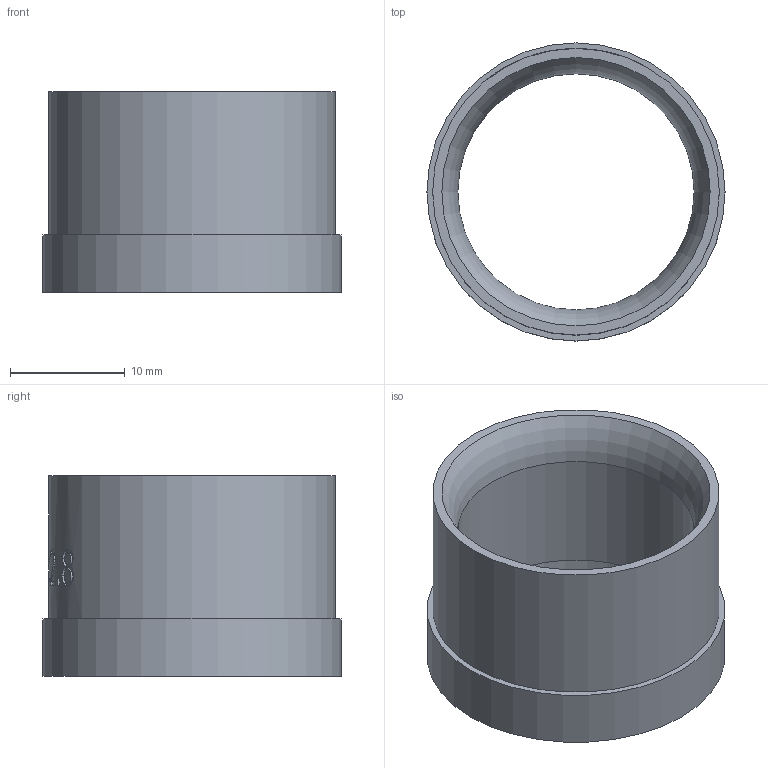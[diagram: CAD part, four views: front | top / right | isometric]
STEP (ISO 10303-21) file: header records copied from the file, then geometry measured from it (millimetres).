
FILE_DESCRIPTION(/* description */ (''),/* implementation_level */ '2;1');
FILE_NAME(/* name */ 'C:\Users\Doom\Desktop\Фадотех\Натяжка\SFG-02 NEW 14.01.2020\SFG-02 NEW 14.01.2020.stp',/* time_stamp */ '2022-07-25T12:04:43+03:00',/* author */ ('Doom'),/* organization */ (''),/* preprocessor_version */ 'ST-DEVELOPER v18',/* originating_system */ 'Autodesk Inventor 2020',/* authorisation */ '');
FILE_SCHEMA (('AUTOMOTIVE_DESIGN { 1 0 10303 214 3 1 1 }'));
Length unit declared in the file: millimetre
Products named in the file (1): SFG-02 NEW 14.01.2020
Bounding box: 26 x 26 x 17.5 mm (x, y, z)
Volume: 2757.9 mm3; surface area: 2895.8 mm2
Topology: 1 solids, 1 shells, 101 faces, 273 edges, 185 vertices
Faces by surface type: bspline 65, plane 22, cylinder 12, cone 1, torus 1
Full cylindrical faces by diameter (mm): 20.6 x1, 25 x1, 26 x1
Entity records: 4752 total; most frequent: CARTESIAN_POINT 2561, ORIENTED_EDGE 546, EDGE_CURVE 273, DIRECTION 253, VERTEX_POINT 185, B_SPLINE_CURVE_WITH_KNOTS 130, EDGE_LOOP 114, LINE 107
